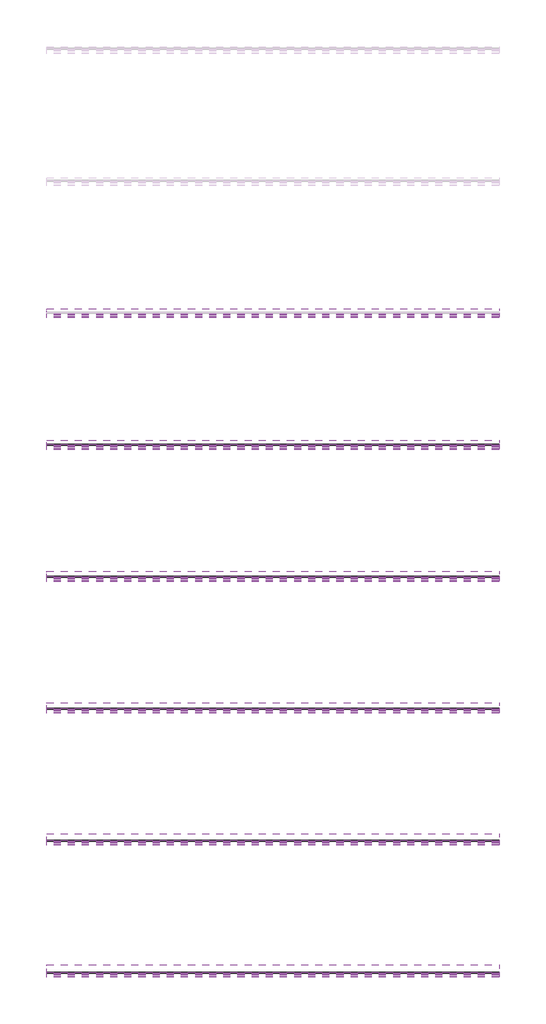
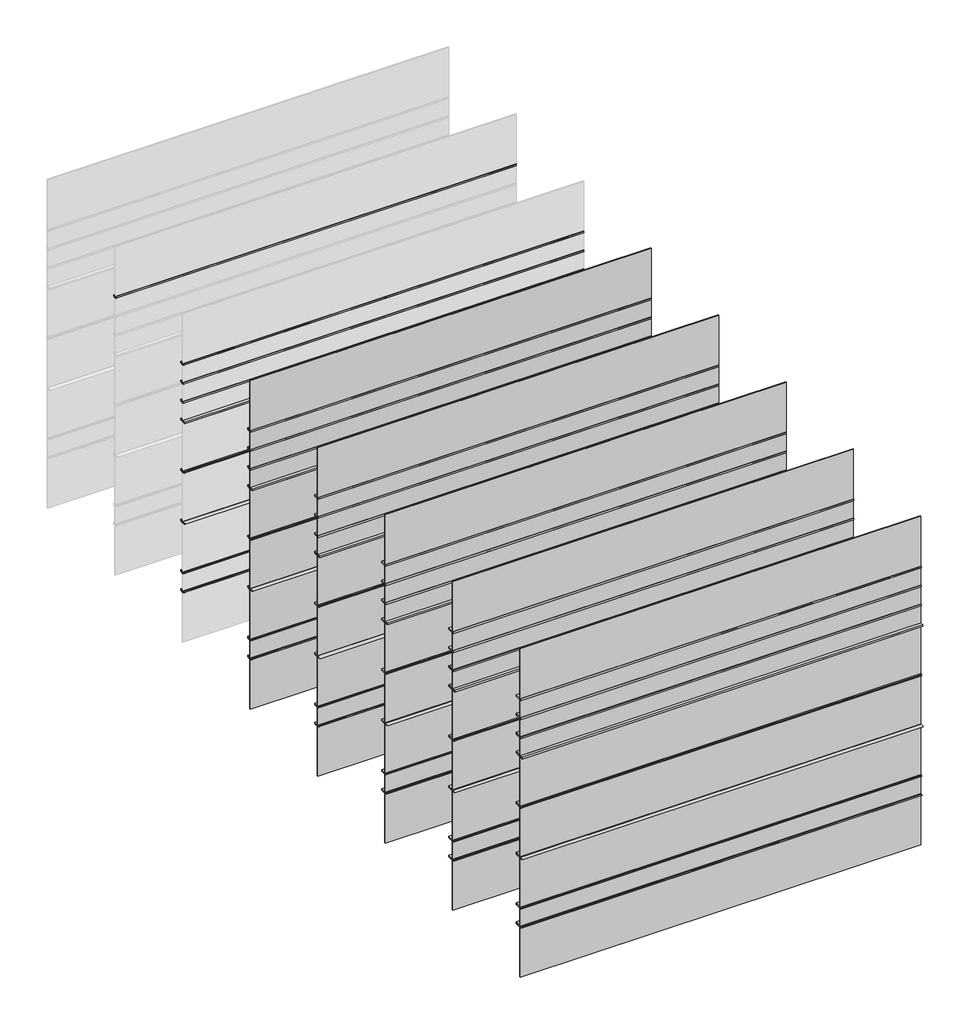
# One storey, part 3 of 4: 49 members, 45 plates.
"""IFC4 building model written with IfcOpenShell, lengths in millimetres."""

from ifc_helpers import new_model, si_unit, origin, place, context, project, spatial, transform, mapped, element, save
from components import rectangular_mullion_597678e5, rectangular_mullion_4a4e9010, rectangular_mullion_36b3f704, rectangular_mullion_515c6c0a, rectangular_mullion_46f770c1, rectangular_mullion_1049462c, rectangular_mullion_6f043096, rectangular_mullion_a5e0a4a2, rectangular_mullion_177b828d, rectangular_mullion_4c3bc3ec, rectangular_mullion_86413ba4, rectangular_mullion_892d21c0, rectangular_mullion_342bc9f6, rectangular_mullion_3ef4cb84, rectangular_mullion_d826bcb7, rectangular_mullion_a6785b0c, rectangular_mullion_d535f9ed, rectangular_mullion_430c60db, rectangular_mullion_0ccb0c52, rectangular_mullion_c67564a4, rectangular_mullion_c2358fa2, rectangular_mullion_a8d858be, rectangular_mullion_c63524a1, rectangular_mullion_42c21d4d, rectangular_mullion_46ebe289, rectangular_mullion_b81a72bd, rectangular_mullion_c18a7aea, rectangular_mullion_4e9b35a7, rectangular_mullion_1d7d6753, rectangular_mullion_405eaec0, rectangular_mullion_38bab3f1, rectangular_mullion_c3005a8d, rectangular_mullion_ff61c363, rectangular_mullion_6f243deb, rectangular_mullion_073814be, rectangular_mullion_bfe2b55c, rectangular_mullion_d7782864, rectangular_mullion_de1e265b, rectangular_mullion_fe6175aa, rectangular_mullion_d78a1f7d, rectangular_mullion_e0de59ed, rectangular_mullion_ef87ac82, rectangular_mullion_c9536558, rectangular_mullion_9b6ecc9d, rectangular_mullion_1dc7512e, rectangular_mullion_e9cda891, rectangular_mullion_11c32cba, rectangular_mullion_9ad05bb0, rectangular_mullion_7831559f, system_panel_glazed_1a993f0c, system_panel_glazed_b61b2489, system_panel_glazed_590bdfaf, system_panel_glazed_47dfef42, system_panel_glazed_745bbd44

model = new_model("IFC4")

# Units and contexts
model_context = context("Model", 3, world=origin())
ifc_project = project(units=[si_unit("LENGTHUNIT", "METRE", prefix="MILLI")], contexts=[model_context])

# Site, building, storey
site = spatial("IfcSite", under=ifc_project)
building = spatial("IfcBuilding", under=site)
storey = spatial("IfcBuildingStorey", under=building, Name="REY 01 - Overview Mullions", Elevation=0.0)

# Members
placement = place(None, origin())
rectangular_mullion_shape = rectangular_mullion_597678e5(model_context)
element("IfcMember", 1, ObjectType="Rectangular Mullion : Reynaers_CW-50_Mullion-Transom_Horizontal_67.4mm_Facecap-02A", at=placement, inside=storey, context=model_context, shape_type="MappedRepresentation", body=[
    mapped(rectangular_mullion_shape, transform((4520.408856, -11600.3540011, 8800.0), x_axis=(0.0, 0.0, 1.0), y_axis=(0.0, 1.0, 0.0), z_axis=(-1.0, 0.0, 0.0))),
])
rectangular_mullion_2_shape = rectangular_mullion_4a4e9010(model_context)
element("IfcMember", 2, ObjectType="Rectangular Mullion : Reynaers_CW-50_Mullion-Transom_Horizontal_88.4mm_Facecap-02A", at=placement, inside=storey, context=model_context, shape_type="MappedRepresentation", body=[
    mapped(rectangular_mullion_2_shape, transform((4520.408856, -15100.3540011, 8800.0), x_axis=(0.0, 0.0, 1.0), y_axis=(0.0, 1.0, 0.0), z_axis=(-1.0, 0.0, 0.0))),
])
rectangular_mullion_3_shape = rectangular_mullion_36b3f704(model_context)
element("IfcMember", 3, ObjectType="Rectangular Mullion : Reynaers_CW-50_Mullion-Transom_Horizontal_88.4mm_Facecap-02B", at=placement, inside=storey, context=model_context, shape_type="MappedRepresentation", body=[
    mapped(rectangular_mullion_3_shape, transform((4520.408856, -15100.3540011, 8200.0), x_axis=(0.0, 0.0, 1.0), y_axis=(0.0, 1.0, 0.0), z_axis=(-1.0, 0.0, 0.0))),
])
rectangular_mullion_4_shape = rectangular_mullion_515c6c0a(model_context)
element("IfcMember", 4, ObjectType="Rectangular Mullion : Reynaers_CW-50_Mullion-Transom_Horizontal_88.4mm_Facecap-02C", at=placement, inside=storey, context=model_context, shape_type="MappedRepresentation", body=[
    mapped(rectangular_mullion_4_shape, transform((4520.408856, -15100.3540011, 7600.0), x_axis=(0.0, 0.0, 1.0), y_axis=(0.0, 1.0, 0.0), z_axis=(-1.0, 0.0, 0.0))),
])
rectangular_mullion_5_shape = rectangular_mullion_46f770c1(model_context)
element("IfcMember", 5, ObjectType="Rectangular Mullion : Reynaers_CW-50_Mullion-Transom_Horizontal_88.4mm_Facecap-02D", at=placement, inside=storey, context=model_context, shape_type="MappedRepresentation", body=[
    mapped(rectangular_mullion_5_shape, transform((4520.408856, -15100.3540011, 7000.0), x_axis=(0.0, 0.0, 1.0), y_axis=(0.0, 1.0, 0.0), z_axis=(-1.0, 0.0, 0.0))),
])
rectangular_mullion_6_shape = rectangular_mullion_1049462c(model_context)
element("IfcMember", 6, ObjectType="Rectangular Mullion : Reynaers_CW-50_Mullion-Transom_Horizontal_88.4mm_Facecap-05", at=placement, inside=storey, context=model_context, shape_type="MappedRepresentation", body=[
    mapped(rectangular_mullion_6_shape, transform((4520.408856, -15100.3540011, 3800.0), x_axis=(0.0, 0.0, 1.0), y_axis=(0.0, 1.0, 0.0), z_axis=(-1.0, 0.0, 0.0))),
])
rectangular_mullion_7_shape = rectangular_mullion_6f043096(model_context)
element("IfcMember", 7, ObjectType="Rectangular Mullion : Reynaers_CW-50_Mullion-Transom_Horizontal_88.4mm_Facecap-06A", at=placement, inside=storey, context=model_context, shape_type="MappedRepresentation", body=[
    mapped(rectangular_mullion_7_shape, transform((4520.408856, -15100.3540011, 2200.0), x_axis=(0.0, 0.0, 1.0), y_axis=(0.0, 1.0, 0.0), z_axis=(-1.0, 0.0, 0.0))),
])
rectangular_mullion_8_shape = rectangular_mullion_a5e0a4a2(model_context)
element("IfcMember", 8, ObjectType="Rectangular Mullion : Reynaers_CW-50_Mullion-Transom_Horizontal_88.4mm_Facecap-06B", at=placement, inside=storey, context=model_context, shape_type="MappedRepresentation", body=[
    mapped(rectangular_mullion_8_shape, transform((4520.408856, -15100.3540011, 1600.0), x_axis=(0.0, 0.0, 1.0), y_axis=(0.0, 1.0, 0.0), z_axis=(-1.0, 0.0, 0.0))),
])
rectangular_mullion_9_shape = rectangular_mullion_177b828d(model_context)
element("IfcMember", 9, ObjectType="Rectangular Mullion : Reynaers_CW-50_Mullion-Transom_Horizontal_109.4mm_Facecap-02A", at=placement, inside=storey, context=model_context, shape_type="MappedRepresentation", body=[
    mapped(rectangular_mullion_9_shape, transform((4520.408856, -18600.3540011, 8800.0), x_axis=(0.0, 0.0, 1.0), y_axis=(0.0, 1.0, 0.0), z_axis=(-1.0, 0.0, 0.0))),
])
rectangular_mullion_10_shape = rectangular_mullion_4c3bc3ec(model_context)
element("IfcMember", 10, ObjectType="Rectangular Mullion : Reynaers_CW-50_Mullion-Transom_Horizontal_109.4mm_Facecap-02B", at=placement, inside=storey, context=model_context, shape_type="MappedRepresentation", body=[
    mapped(rectangular_mullion_10_shape, transform((4520.408856, -18600.3540011, 8200.0), x_axis=(0.0, 0.0, 1.0), y_axis=(0.0, 1.0, 0.0), z_axis=(-1.0, 0.0, 0.0))),
])
rectangular_mullion_11_shape = rectangular_mullion_86413ba4(model_context)
element("IfcMember", 11, ObjectType="Rectangular Mullion : Reynaers_CW-50_Mullion-Transom_Horizontal_109.4mm_Facecap-02C", at=placement, inside=storey, context=model_context, shape_type="MappedRepresentation", body=[
    mapped(rectangular_mullion_11_shape, transform((4520.408856, -18600.3540011, 7600.0), x_axis=(0.0, 0.0, 1.0), y_axis=(0.0, 1.0, 0.0), z_axis=(-1.0, 0.0, 0.0))),
])
rectangular_mullion_12_shape = rectangular_mullion_892d21c0(model_context)
element("IfcMember", 12, ObjectType="Rectangular Mullion : Reynaers_CW-50_Mullion-Transom_Horizontal_109.4mm_Facecap-02D", at=placement, inside=storey, context=model_context, shape_type="MappedRepresentation", body=[
    mapped(rectangular_mullion_12_shape, transform((4520.408856, -18600.3540011, 7000.0), x_axis=(0.0, 0.0, 1.0), y_axis=(0.0, 1.0, 0.0), z_axis=(-1.0, 0.0, 0.0))),
])
rectangular_mullion_13_shape = rectangular_mullion_342bc9f6(model_context)
element("IfcMember", 13, ObjectType="Rectangular Mullion : Reynaers_CW-50_Mullion-Transom_Horizontal_109.4mm_Facecap-05", at=placement, inside=storey, context=model_context, shape_type="MappedRepresentation", body=[
    mapped(rectangular_mullion_13_shape, transform((4520.408856, -18600.3540011, 3800.0), x_axis=(0.0, 0.0, 1.0), y_axis=(0.0, 1.0, 0.0), z_axis=(-1.0, 0.0, 0.0))),
])
rectangular_mullion_14_shape = rectangular_mullion_3ef4cb84(model_context)
element("IfcMember", 14, ObjectType="Rectangular Mullion : Reynaers_CW-50_Mullion-Transom_Horizontal_109.4mm_Facecap-06A", at=placement, inside=storey, context=model_context, shape_type="MappedRepresentation", body=[
    mapped(rectangular_mullion_14_shape, transform((4520.408856, -18600.3540011, 2200.0), x_axis=(0.0, 0.0, 1.0), y_axis=(0.0, 1.0, 0.0), z_axis=(-1.0, 0.0, 0.0))),
])
rectangular_mullion_15_shape = rectangular_mullion_d826bcb7(model_context)
element("IfcMember", 15, ObjectType="Rectangular Mullion : Reynaers_CW-50_Mullion-Transom_Horizontal_109.4mm_Facecap-06B", at=placement, inside=storey, context=model_context, shape_type="MappedRepresentation", body=[
    mapped(rectangular_mullion_15_shape, transform((4520.408856, -18600.3540011, 1600.0), x_axis=(0.0, 0.0, 1.0), y_axis=(0.0, 1.0, 0.0), z_axis=(-1.0, 0.0, 0.0))),
])
rectangular_mullion_16_shape = rectangular_mullion_a6785b0c(model_context)
element("IfcMember", 16, ObjectType="Rectangular Mullion : Reynaers_CW-50_Mullion-Transom_Horizontal_130.4mm_Facecap-02A", at=placement, inside=storey, context=model_context, shape_type="MappedRepresentation", body=[
    mapped(rectangular_mullion_16_shape, transform((4520.408856, -22100.3540011, 8800.0), x_axis=(0.0, 0.0, 1.0), y_axis=(0.0, 1.0, 0.0), z_axis=(-1.0, 0.0, 0.0))),
])
rectangular_mullion_17_shape = rectangular_mullion_d535f9ed(model_context)
element("IfcMember", 17, ObjectType="Rectangular Mullion : Reynaers_CW-50_Mullion-Transom_Horizontal_130.4mm_Facecap-02B", at=placement, inside=storey, context=model_context, shape_type="MappedRepresentation", body=[
    mapped(rectangular_mullion_17_shape, transform((4520.408856, -22100.3540011, 8200.0), x_axis=(0.0, 0.0, 1.0), y_axis=(0.0, 1.0, 0.0), z_axis=(-1.0, 0.0, 0.0))),
])
rectangular_mullion_18_shape = rectangular_mullion_430c60db(model_context)
element("IfcMember", 18, ObjectType="Rectangular Mullion : Reynaers_CW-50_Mullion-Transom_Horizontal_130.4mm_Facecap-02C", at=placement, inside=storey, context=model_context, shape_type="MappedRepresentation", body=[
    mapped(rectangular_mullion_18_shape, transform((4520.408856, -22100.3540011, 7600.0), x_axis=(0.0, 0.0, 1.0), y_axis=(0.0, 1.0, 0.0), z_axis=(-1.0, 0.0, 0.0))),
])
rectangular_mullion_19_shape = rectangular_mullion_0ccb0c52(model_context)
element("IfcMember", 19, ObjectType="Rectangular Mullion : Reynaers_CW-50_Mullion-Transom_Horizontal_130.4mm_Facecap-02D", at=placement, inside=storey, context=model_context, shape_type="MappedRepresentation", body=[
    mapped(rectangular_mullion_19_shape, transform((4520.408856, -22100.3540011, 7000.0), x_axis=(0.0, 0.0, 1.0), y_axis=(0.0, 1.0, 0.0), z_axis=(-1.0, 0.0, 0.0))),
])
rectangular_mullion_20_shape = rectangular_mullion_c67564a4(model_context)
element("IfcMember", 20, ObjectType="Rectangular Mullion : Reynaers_CW-50_Mullion-Transom_Horizontal_130.4mm_Facecap-05", at=placement, inside=storey, context=model_context, shape_type="MappedRepresentation", body=[
    mapped(rectangular_mullion_20_shape, transform((4520.408856, -22100.3540011, 3800.0), x_axis=(0.0, 0.0, 1.0), y_axis=(0.0, 1.0, 0.0), z_axis=(-1.0, 0.0, 0.0))),
])
rectangular_mullion_21_shape = rectangular_mullion_c2358fa2(model_context)
element("IfcMember", 21, ObjectType="Rectangular Mullion : Reynaers_CW-50_Mullion-Transom_Horizontal_130.4mm_Facecap-06A", at=placement, inside=storey, context=model_context, shape_type="MappedRepresentation", body=[
    mapped(rectangular_mullion_21_shape, transform((4520.408856, -22100.3540011, 2200.0), x_axis=(0.0, 0.0, 1.0), y_axis=(0.0, 1.0, 0.0), z_axis=(-1.0, 0.0, 0.0))),
])
rectangular_mullion_22_shape = rectangular_mullion_a8d858be(model_context)
element("IfcMember", 22, ObjectType="Rectangular Mullion : Reynaers_CW-50_Mullion-Transom_Horizontal_130.4mm_Facecap-06B", at=placement, inside=storey, context=model_context, shape_type="MappedRepresentation", body=[
    mapped(rectangular_mullion_22_shape, transform((4520.408856, -22100.3540011, 1600.0), x_axis=(0.0, 0.0, 1.0), y_axis=(0.0, 1.0, 0.0), z_axis=(-1.0, 0.0, 0.0))),
])
rectangular_mullion_23_shape = rectangular_mullion_c63524a1(model_context)
element("IfcMember", 23, ObjectType="Rectangular Mullion : Reynaers_CW-50_Mullion-Transom_Horizontal_151.4mm_Facecap-02A", at=placement, inside=storey, context=model_context, shape_type="MappedRepresentation", body=[
    mapped(rectangular_mullion_23_shape, transform((4520.408856, -25600.3540011, 8800.0), x_axis=(0.0, 0.0, 1.0), y_axis=(0.0, 1.0, 0.0), z_axis=(-1.0, 0.0, 0.0))),
])
rectangular_mullion_24_shape = rectangular_mullion_42c21d4d(model_context)
element("IfcMember", 24, ObjectType="Rectangular Mullion : Reynaers_CW-50_Mullion-Transom_Horizontal_151.4mm_Facecap-02B", at=placement, inside=storey, context=model_context, shape_type="MappedRepresentation", body=[
    mapped(rectangular_mullion_24_shape, transform((4520.408856, -25600.3540011, 8200.0), x_axis=(0.0, 0.0, 1.0), y_axis=(0.0, 1.0, 0.0), z_axis=(-1.0, 0.0, 0.0))),
])
rectangular_mullion_25_shape = rectangular_mullion_46ebe289(model_context)
element("IfcMember", 25, ObjectType="Rectangular Mullion : Reynaers_CW-50_Mullion-Transom_Horizontal_151.4mm_Facecap-02C", at=placement, inside=storey, context=model_context, shape_type="MappedRepresentation", body=[
    mapped(rectangular_mullion_25_shape, transform((4520.408856, -25600.3540011, 7600.0), x_axis=(0.0, 0.0, 1.0), y_axis=(0.0, 1.0, 0.0), z_axis=(-1.0, 0.0, 0.0))),
])
rectangular_mullion_26_shape = rectangular_mullion_b81a72bd(model_context)
element("IfcMember", 26, ObjectType="Rectangular Mullion : Reynaers_CW-50_Mullion-Transom_Horizontal_151.4mm_Facecap-02D", at=placement, inside=storey, context=model_context, shape_type="MappedRepresentation", body=[
    mapped(rectangular_mullion_26_shape, transform((4520.408856, -25600.3540011, 7000.0), x_axis=(0.0, 0.0, 1.0), y_axis=(0.0, 1.0, 0.0), z_axis=(-1.0, 0.0, 0.0))),
])
rectangular_mullion_27_shape = rectangular_mullion_c18a7aea(model_context)
element("IfcMember", 27, ObjectType="Rectangular Mullion : Reynaers_CW-50_Mullion-Transom_Horizontal_151.4mm_Facecap-05", at=placement, inside=storey, context=model_context, shape_type="MappedRepresentation", body=[
    mapped(rectangular_mullion_27_shape, transform((4520.408856, -25600.3540011, 3800.0), x_axis=(0.0, 0.0, 1.0), y_axis=(0.0, 1.0, 0.0), z_axis=(-1.0, 0.0, 0.0))),
])
rectangular_mullion_28_shape = rectangular_mullion_4e9b35a7(model_context)
element("IfcMember", 28, ObjectType="Rectangular Mullion : Reynaers_CW-50_Mullion-Transom_Horizontal_151.4mm_Facecap-06A", at=placement, inside=storey, context=model_context, shape_type="MappedRepresentation", body=[
    mapped(rectangular_mullion_28_shape, transform((4520.408856, -25600.3540011, 2200.0), x_axis=(0.0, 0.0, 1.0), y_axis=(0.0, 1.0, 0.0), z_axis=(-1.0, 0.0, 0.0))),
])
rectangular_mullion_29_shape = rectangular_mullion_1d7d6753(model_context)
element("IfcMember", 29, ObjectType="Rectangular Mullion : Reynaers_CW-50_Mullion-Transom_Horizontal_151.4mm_Facecap-06B", at=placement, inside=storey, context=model_context, shape_type="MappedRepresentation", body=[
    mapped(rectangular_mullion_29_shape, transform((4520.408856, -25600.3540011, 1600.0), x_axis=(0.0, 0.0, 1.0), y_axis=(0.0, 1.0, 0.0), z_axis=(-1.0, 0.0, 0.0))),
])
rectangular_mullion_30_shape = rectangular_mullion_405eaec0(model_context)
element("IfcMember", 30, ObjectType="Rectangular Mullion : Reynaers_CW-50_Mullion-Transom_Horizontal_172.4mm_Facecap-02A", at=placement, inside=storey, context=model_context, shape_type="MappedRepresentation", body=[
    mapped(rectangular_mullion_30_shape, transform((4520.408856, -29100.3540011, 8800.0), x_axis=(0.0, 0.0, 1.0), y_axis=(0.0, 1.0, 0.0), z_axis=(-1.0, 0.0, 0.0))),
])
rectangular_mullion_31_shape = rectangular_mullion_38bab3f1(model_context)
element("IfcMember", 31, ObjectType="Rectangular Mullion : Reynaers_CW-50_Mullion-Transom_Horizontal_172.4mm_Facecap-02B", at=placement, inside=storey, context=model_context, shape_type="MappedRepresentation", body=[
    mapped(rectangular_mullion_31_shape, transform((4520.408856, -29100.3540011, 8200.0), x_axis=(0.0, 0.0, 1.0), y_axis=(0.0, 1.0, 0.0), z_axis=(-1.0, 0.0, 0.0))),
])
rectangular_mullion_32_shape = rectangular_mullion_c3005a8d(model_context)
element("IfcMember", 32, ObjectType="Rectangular Mullion : Reynaers_CW-50_Mullion-Transom_Horizontal_172.4mm_Facecap-02C", at=placement, inside=storey, context=model_context, shape_type="MappedRepresentation", body=[
    mapped(rectangular_mullion_32_shape, transform((4520.408856, -29100.3540011, 7600.0), x_axis=(0.0, 0.0, 1.0), y_axis=(0.0, 1.0, 0.0), z_axis=(-1.0, 0.0, 0.0))),
])
rectangular_mullion_33_shape = rectangular_mullion_ff61c363(model_context)
element("IfcMember", 33, ObjectType="Rectangular Mullion : Reynaers_CW-50_Mullion-Transom_Horizontal_172.4mm_Facecap-02D", at=placement, inside=storey, context=model_context, shape_type="MappedRepresentation", body=[
    mapped(rectangular_mullion_33_shape, transform((4520.408856, -29100.3540011, 7000.0), x_axis=(0.0, 0.0, 1.0), y_axis=(0.0, 1.0, 0.0), z_axis=(-1.0, 0.0, 0.0))),
])
rectangular_mullion_34_shape = rectangular_mullion_6f243deb(model_context)
element("IfcMember", 34, ObjectType="Rectangular Mullion : Reynaers_CW-50_Mullion-Transom_Horizontal_172.4mm_Facecap-05", at=placement, inside=storey, context=model_context, shape_type="MappedRepresentation", body=[
    mapped(rectangular_mullion_34_shape, transform((4520.408856, -29100.3540011, 3800.0), x_axis=(0.0, 0.0, 1.0), y_axis=(0.0, 1.0, 0.0), z_axis=(-1.0, 0.0, 0.0))),
])
rectangular_mullion_35_shape = rectangular_mullion_073814be(model_context)
element("IfcMember", 35, ObjectType="Rectangular Mullion : Reynaers_CW-50_Mullion-Transom_Horizontal_172.4mm_Facecap-06A", at=placement, inside=storey, context=model_context, shape_type="MappedRepresentation", body=[
    mapped(rectangular_mullion_35_shape, transform((4520.408856, -29100.3540011, 2200.0), x_axis=(0.0, 0.0, 1.0), y_axis=(0.0, 1.0, 0.0), z_axis=(-1.0, 0.0, 0.0))),
])
rectangular_mullion_36_shape = rectangular_mullion_bfe2b55c(model_context)
element("IfcMember", 36, ObjectType="Rectangular Mullion : Reynaers_CW-50_Mullion-Transom_Horizontal_172.4mm_Facecap-06B", at=placement, inside=storey, context=model_context, shape_type="MappedRepresentation", body=[
    mapped(rectangular_mullion_36_shape, transform((4520.408856, -29100.3540011, 1600.0), x_axis=(0.0, 0.0, 1.0), y_axis=(0.0, 1.0, 0.0), z_axis=(-1.0, 0.0, 0.0))),
])
rectangular_mullion_37_shape = rectangular_mullion_d7782864(model_context)
element("IfcMember", 37, ObjectType="Rectangular Mullion : Reynaers_CW-50_Mullion-Transom_Horizontal_193.4mm_Facecap-02A", at=placement, inside=storey, context=model_context, shape_type="MappedRepresentation", body=[
    mapped(rectangular_mullion_37_shape, transform((4520.408856, -32600.3540011, 8800.0), x_axis=(0.0, 0.0, 1.0), y_axis=(0.0, 1.0, 0.0), z_axis=(-1.0, 0.0, 0.0))),
])
rectangular_mullion_38_shape = rectangular_mullion_de1e265b(model_context)
element("IfcMember", 38, ObjectType="Rectangular Mullion : Reynaers_CW-50_Mullion-Transom_Horizontal_193.4mm_Facecap-02B", at=placement, inside=storey, context=model_context, shape_type="MappedRepresentation", body=[
    mapped(rectangular_mullion_38_shape, transform((4520.408856, -32600.3540011, 8200.0), x_axis=(0.0, 0.0, 1.0), y_axis=(0.0, 1.0, 0.0), z_axis=(-1.0, 0.0, 0.0))),
])
rectangular_mullion_39_shape = rectangular_mullion_fe6175aa(model_context)
element("IfcMember", 39, ObjectType="Rectangular Mullion : Reynaers_CW-50_Mullion-Transom_Horizontal_193.4mm_Facecap-02C", at=placement, inside=storey, context=model_context, shape_type="MappedRepresentation", body=[
    mapped(rectangular_mullion_39_shape, transform((4520.408856, -32600.3540011, 7600.0), x_axis=(0.0, 0.0, 1.0), y_axis=(0.0, 1.0, 0.0), z_axis=(-1.0, 0.0, 0.0))),
])
rectangular_mullion_40_shape = rectangular_mullion_d78a1f7d(model_context)
element("IfcMember", 40, ObjectType="Rectangular Mullion : Reynaers_CW-50_Mullion-Transom_Horizontal_193.4mm_Facecap-02D", at=placement, inside=storey, context=model_context, shape_type="MappedRepresentation", body=[
    mapped(rectangular_mullion_40_shape, transform((4520.408856, -32600.3540011, 7000.0), x_axis=(0.0, 0.0, 1.0), y_axis=(0.0, 1.0, 0.0), z_axis=(-1.0, 0.0, 0.0))),
])
rectangular_mullion_41_shape = rectangular_mullion_e0de59ed(model_context)
element("IfcMember", 41, ObjectType="Rectangular Mullion : Reynaers_CW-50_Mullion-Transom_Horizontal_193.4mm_Facecap-05", at=placement, inside=storey, context=model_context, shape_type="MappedRepresentation", body=[
    mapped(rectangular_mullion_41_shape, transform((4520.408856, -32600.3540011, 3800.0), x_axis=(0.0, 0.0, 1.0), y_axis=(0.0, 1.0, 0.0), z_axis=(-1.0, 0.0, 0.0))),
])
rectangular_mullion_42_shape = rectangular_mullion_ef87ac82(model_context)
element("IfcMember", 42, ObjectType="Rectangular Mullion : Reynaers_CW-50_Mullion-Transom_Horizontal_193.4mm_Facecap-06A", at=placement, inside=storey, context=model_context, shape_type="MappedRepresentation", body=[
    mapped(rectangular_mullion_42_shape, transform((4520.408856, -32600.3540011, 2200.0), x_axis=(0.0, 0.0, 1.0), y_axis=(0.0, 1.0, 0.0), z_axis=(-1.0, 0.0, 0.0))),
])
rectangular_mullion_43_shape = rectangular_mullion_c9536558(model_context)
element("IfcMember", 43, ObjectType="Rectangular Mullion : Reynaers_CW-50_Mullion-Transom_Horizontal_193.4mm_Facecap-06B", at=placement, inside=storey, context=model_context, shape_type="MappedRepresentation", body=[
    mapped(rectangular_mullion_43_shape, transform((4520.408856, -32600.3540011, 1600.0), x_axis=(0.0, 0.0, 1.0), y_axis=(0.0, 1.0, 0.0), z_axis=(-1.0, 0.0, 0.0))),
])
rectangular_mullion_44_shape = rectangular_mullion_9b6ecc9d(model_context)
element("IfcMember", 44, ObjectType="Rectangular Mullion : Reynaers_CW-50_Mullion-Transom_Horizontal_88.4mm_Facecap-03", at=placement, inside=storey, context=model_context, shape_type="MappedRepresentation", body=[
    mapped(rectangular_mullion_44_shape, transform((4520.408856, -15100.3540011, 5400.0), x_axis=(0.0, 0.0, 1.0), y_axis=(0.0, 1.0, 0.0), z_axis=(-1.0, 0.0, 0.0))),
])
rectangular_mullion_45_shape = rectangular_mullion_1dc7512e(model_context)
element("IfcMember", 45, ObjectType="Rectangular Mullion : Reynaers_CW-50_Mullion-Transom_Horizontal_109.4mm_Facecap-03", at=placement, inside=storey, context=model_context, shape_type="MappedRepresentation", body=[
    mapped(rectangular_mullion_45_shape, transform((4520.408856, -18600.3540011, 5400.0), x_axis=(0.0, 0.0, 1.0), y_axis=(0.0, 1.0, 0.0), z_axis=(-1.0, 0.0, 0.0))),
])
rectangular_mullion_46_shape = rectangular_mullion_e9cda891(model_context)
element("IfcMember", 46, ObjectType="Rectangular Mullion : Reynaers_CW-50_Mullion-Transom_Horizontal_130.4mm_Facecap-03", at=placement, inside=storey, context=model_context, shape_type="MappedRepresentation", body=[
    mapped(rectangular_mullion_46_shape, transform((4520.408856, -22100.3540011, 5400.0), x_axis=(0.0, 0.0, 1.0), y_axis=(0.0, 1.0, 0.0), z_axis=(-1.0, 0.0, 0.0))),
])
rectangular_mullion_47_shape = rectangular_mullion_11c32cba(model_context)
element("IfcMember", 47, ObjectType="Rectangular Mullion : Reynaers_CW-50_Mullion-Transom_Horizontal_151.4mm_Facecap-03", at=placement, inside=storey, context=model_context, shape_type="MappedRepresentation", body=[
    mapped(rectangular_mullion_47_shape, transform((4520.408856, -25600.3540011, 5400.0), x_axis=(0.0, 0.0, 1.0), y_axis=(0.0, 1.0, 0.0), z_axis=(-1.0, 0.0, 0.0))),
])
rectangular_mullion_48_shape = rectangular_mullion_9ad05bb0(model_context)
element("IfcMember", 48, ObjectType="Rectangular Mullion : Reynaers_CW-50_Mullion-Transom_Horizontal_172.4mm_Facecap-03", at=placement, inside=storey, context=model_context, shape_type="MappedRepresentation", body=[
    mapped(rectangular_mullion_48_shape, transform((4520.408856, -29100.3540011, 5400.0), x_axis=(0.0, 0.0, 1.0), y_axis=(0.0, 1.0, 0.0), z_axis=(-1.0, 0.0, 0.0))),
])
rectangular_mullion_49_shape = rectangular_mullion_7831559f(model_context)
element("IfcMember", 49, ObjectType="Rectangular Mullion : Reynaers_CW-50_Mullion-Transom_Horizontal_193.4mm_Facecap-03", at=placement, inside=storey, context=model_context, shape_type="MappedRepresentation", body=[
    mapped(rectangular_mullion_49_shape, transform((4520.408856, -32600.3540011, 5400.0), x_axis=(0.0, 0.0, 1.0), y_axis=(0.0, 1.0, 0.0), z_axis=(-1.0, 0.0, 0.0))),
])

# Plates
system_panel_glazed_shape = system_panel_glazed_1a993f0c(model_context)
element("IfcPlate", 50, ObjectType="System Panel : Glazed", at=placement, inside=storey, context=model_context, shape_type="MappedRepresentation", body=[
    mapped(system_panel_glazed_shape, transform((10520.408856, -32600.3540011, 8805.2995941), x_axis=(-1.0, 0.0, 0.0), y_axis=(0.0, -1.0, 0.0), z_axis=(0.0, 0.0, 1.0))),
])
element("IfcPlate", 51, ObjectType="System Panel : Glazed", at=placement, inside=storey, context=model_context, shape_type="MappedRepresentation", body=[
    mapped(system_panel_glazed_shape, transform((10520.408856, -29100.3540011, 8805.2995941), x_axis=(-1.0, 0.0, 0.0), y_axis=(0.0, -1.0, 0.0), z_axis=(0.0, 0.0, 1.0))),
])
element("IfcPlate", 52, ObjectType="System Panel : Glazed", at=placement, inside=storey, context=model_context, shape_type="MappedRepresentation", body=[
    mapped(system_panel_glazed_shape, transform((10520.408856, -25600.3540011, 8805.2995941), x_axis=(-1.0, 0.0, 0.0), y_axis=(0.0, -1.0, 0.0), z_axis=(0.0, 0.0, 1.0))),
])
element("IfcPlate", 53, ObjectType="System Panel : Glazed", at=placement, inside=storey, context=model_context, shape_type="MappedRepresentation", body=[
    mapped(system_panel_glazed_shape, transform((10520.408856, -22100.3540011, 8805.2995941), x_axis=(-1.0, 0.0, 0.0), y_axis=(0.0, -1.0, 0.0), z_axis=(0.0, 0.0, 1.0))),
])
element("IfcPlate", 54, ObjectType="System Panel : Glazed", at=placement, inside=storey, context=model_context, shape_type="MappedRepresentation", body=[
    mapped(system_panel_glazed_shape, transform((10520.408856, -18600.3540011, 8805.2995941), x_axis=(-1.0, 0.0, 0.0), y_axis=(0.0, -1.0, 0.0), z_axis=(0.0, 0.0, 1.0))),
])
system_panel_glazed_2_shape = system_panel_glazed_b61b2489(model_context)
element("IfcPlate", 55, ObjectType="System Panel : Glazed", at=placement, inside=storey, context=model_context, shape_type="MappedRepresentation", body=[
    mapped(system_panel_glazed_2_shape, transform((10520.408856, -32600.3540011, 1605.2995941), x_axis=(-1.0, 0.0, 0.0), y_axis=(0.0, -1.0, 0.0), z_axis=(0.0, 0.0, 1.0))),
])
element("IfcPlate", 56, ObjectType="System Panel : Glazed", at=placement, inside=storey, context=model_context, shape_type="MappedRepresentation", body=[
    mapped(system_panel_glazed_2_shape, transform((10520.408856, -32600.3540011, 7005.2995941), x_axis=(-1.0, 0.0, 0.0), y_axis=(0.0, -1.0, 0.0), z_axis=(0.0, 0.0, 1.0))),
])
element("IfcPlate", 57, ObjectType="System Panel : Glazed", at=placement, inside=storey, context=model_context, shape_type="MappedRepresentation", body=[
    mapped(system_panel_glazed_2_shape, transform((10520.408856, -32600.3540011, 7605.2995941), x_axis=(-1.0, 0.0, 0.0), y_axis=(0.0, -1.0, 0.0), z_axis=(0.0, 0.0, 1.0))),
])
element("IfcPlate", 58, ObjectType="System Panel : Glazed", at=placement, inside=storey, context=model_context, shape_type="MappedRepresentation", body=[
    mapped(system_panel_glazed_2_shape, transform((10520.408856, -32600.3540011, 8205.2995941), x_axis=(-1.0, 0.0, 0.0), y_axis=(0.0, -1.0, 0.0), z_axis=(0.0, 0.0, 1.0))),
])
element("IfcPlate", 59, ObjectType="System Panel : Glazed", at=placement, inside=storey, context=model_context, shape_type="MappedRepresentation", body=[
    mapped(system_panel_glazed_2_shape, transform((10520.408856, -29100.3540011, 1605.2995941), x_axis=(-1.0, 0.0, 0.0), y_axis=(0.0, -1.0, 0.0), z_axis=(0.0, 0.0, 1.0))),
])
element("IfcPlate", 60, ObjectType="System Panel : Glazed", at=placement, inside=storey, context=model_context, shape_type="MappedRepresentation", body=[
    mapped(system_panel_glazed_2_shape, transform((10520.408856, -29100.3540011, 7005.2995941), x_axis=(-1.0, 0.0, 0.0), y_axis=(0.0, -1.0, 0.0), z_axis=(0.0, 0.0, 1.0))),
])
element("IfcPlate", 61, ObjectType="System Panel : Glazed", at=placement, inside=storey, context=model_context, shape_type="MappedRepresentation", body=[
    mapped(system_panel_glazed_2_shape, transform((10520.408856, -29100.3540011, 7605.2995941), x_axis=(-1.0, 0.0, 0.0), y_axis=(0.0, -1.0, 0.0), z_axis=(0.0, 0.0, 1.0))),
])
element("IfcPlate", 62, ObjectType="System Panel : Glazed", at=placement, inside=storey, context=model_context, shape_type="MappedRepresentation", body=[
    mapped(system_panel_glazed_2_shape, transform((10520.408856, -29100.3540011, 8205.2995941), x_axis=(-1.0, 0.0, 0.0), y_axis=(0.0, -1.0, 0.0), z_axis=(0.0, 0.0, 1.0))),
])
element("IfcPlate", 63, ObjectType="System Panel : Glazed", at=placement, inside=storey, context=model_context, shape_type="MappedRepresentation", body=[
    mapped(system_panel_glazed_2_shape, transform((10520.408856, -25600.3540011, 1605.2995941), x_axis=(-1.0, 0.0, 0.0), y_axis=(0.0, -1.0, 0.0), z_axis=(0.0, 0.0, 1.0))),
])
element("IfcPlate", 64, ObjectType="System Panel : Glazed", at=placement, inside=storey, context=model_context, shape_type="MappedRepresentation", body=[
    mapped(system_panel_glazed_2_shape, transform((10520.408856, -25600.3540011, 7005.2995941), x_axis=(-1.0, 0.0, 0.0), y_axis=(0.0, -1.0, 0.0), z_axis=(0.0, 0.0, 1.0))),
])
element("IfcPlate", 65, ObjectType="System Panel : Glazed", at=placement, inside=storey, context=model_context, shape_type="MappedRepresentation", body=[
    mapped(system_panel_glazed_2_shape, transform((10520.408856, -25600.3540011, 7605.2995941), x_axis=(-1.0, 0.0, 0.0), y_axis=(0.0, -1.0, 0.0), z_axis=(0.0, 0.0, 1.0))),
])
element("IfcPlate", 66, ObjectType="System Panel : Glazed", at=placement, inside=storey, context=model_context, shape_type="MappedRepresentation", body=[
    mapped(system_panel_glazed_2_shape, transform((10520.408856, -25600.3540011, 8205.2995941), x_axis=(-1.0, 0.0, 0.0), y_axis=(0.0, -1.0, 0.0), z_axis=(0.0, 0.0, 1.0))),
])
element("IfcPlate", 67, ObjectType="System Panel : Glazed", at=placement, inside=storey, context=model_context, shape_type="MappedRepresentation", body=[
    mapped(system_panel_glazed_2_shape, transform((10520.408856, -22100.3540011, 1605.2995941), x_axis=(-1.0, 0.0, 0.0), y_axis=(0.0, -1.0, 0.0), z_axis=(0.0, 0.0, 1.0))),
])
element("IfcPlate", 68, ObjectType="System Panel : Glazed", at=placement, inside=storey, context=model_context, shape_type="MappedRepresentation", body=[
    mapped(system_panel_glazed_2_shape, transform((10520.408856, -22100.3540011, 7005.2995941), x_axis=(-1.0, 0.0, 0.0), y_axis=(0.0, -1.0, 0.0), z_axis=(0.0, 0.0, 1.0))),
])
element("IfcPlate", 69, ObjectType="System Panel : Glazed", at=placement, inside=storey, context=model_context, shape_type="MappedRepresentation", body=[
    mapped(system_panel_glazed_2_shape, transform((10520.408856, -22100.3540011, 7605.2995941), x_axis=(-1.0, 0.0, 0.0), y_axis=(0.0, -1.0, 0.0), z_axis=(0.0, 0.0, 1.0))),
])
element("IfcPlate", 70, ObjectType="System Panel : Glazed", at=placement, inside=storey, context=model_context, shape_type="MappedRepresentation", body=[
    mapped(system_panel_glazed_2_shape, transform((10520.408856, -22100.3540011, 8205.2995941), x_axis=(-1.0, 0.0, 0.0), y_axis=(0.0, -1.0, 0.0), z_axis=(0.0, 0.0, 1.0))),
])
element("IfcPlate", 71, ObjectType="System Panel : Glazed", at=placement, inside=storey, context=model_context, shape_type="MappedRepresentation", body=[
    mapped(system_panel_glazed_2_shape, transform((10520.408856, -18600.3540011, 1605.2995941), x_axis=(-1.0, 0.0, 0.0), y_axis=(0.0, -1.0, 0.0), z_axis=(0.0, 0.0, 1.0))),
])
element("IfcPlate", 72, ObjectType="System Panel : Glazed", at=placement, inside=storey, context=model_context, shape_type="MappedRepresentation", body=[
    mapped(system_panel_glazed_2_shape, transform((10520.408856, -18600.3540011, 7005.2995941), x_axis=(-1.0, 0.0, 0.0), y_axis=(0.0, -1.0, 0.0), z_axis=(0.0, 0.0, 1.0))),
])
element("IfcPlate", 73, ObjectType="System Panel : Glazed", at=placement, inside=storey, context=model_context, shape_type="MappedRepresentation", body=[
    mapped(system_panel_glazed_2_shape, transform((10520.408856, -18600.3540011, 7605.2995941), x_axis=(-1.0, 0.0, 0.0), y_axis=(0.0, -1.0, 0.0), z_axis=(0.0, 0.0, 1.0))),
])
element("IfcPlate", 74, ObjectType="System Panel : Glazed", at=placement, inside=storey, context=model_context, shape_type="MappedRepresentation", body=[
    mapped(system_panel_glazed_2_shape, transform((10520.408856, -18600.3540011, 8205.2995941), x_axis=(-1.0, 0.0, 0.0), y_axis=(0.0, -1.0, 0.0), z_axis=(0.0, 0.0, 1.0))),
])
system_panel_glazed_3_shape = system_panel_glazed_590bdfaf(model_context)
element("IfcPlate", 75, ObjectType="System Panel : Glazed", at=placement, inside=storey, context=model_context, shape_type="MappedRepresentation", body=[
    mapped(system_panel_glazed_3_shape, transform((10520.408856, -32600.3540011, 0.0), x_axis=(-1.0, 0.0, 0.0), y_axis=(0.0, -1.0, 0.0), z_axis=(0.0, 0.0, 1.0))),
])
element("IfcPlate", 76, ObjectType="System Panel : Glazed", at=placement, inside=storey, context=model_context, shape_type="MappedRepresentation", body=[
    mapped(system_panel_glazed_3_shape, transform((10520.408856, -29100.3540011, 0.0), x_axis=(-1.0, 0.0, 0.0), y_axis=(0.0, -1.0, 0.0), z_axis=(0.0, 0.0, 1.0))),
])
element("IfcPlate", 77, ObjectType="System Panel : Glazed", at=placement, inside=storey, context=model_context, shape_type="MappedRepresentation", body=[
    mapped(system_panel_glazed_3_shape, transform((10520.408856, -25600.3540011, 0.0), x_axis=(-1.0, 0.0, 0.0), y_axis=(0.0, -1.0, 0.0), z_axis=(0.0, 0.0, 1.0))),
])
element("IfcPlate", 78, ObjectType="System Panel : Glazed", at=placement, inside=storey, context=model_context, shape_type="MappedRepresentation", body=[
    mapped(system_panel_glazed_3_shape, transform((10520.408856, -22100.3540011, 0.0), x_axis=(-1.0, 0.0, 0.0), y_axis=(0.0, -1.0, 0.0), z_axis=(0.0, 0.0, 1.0))),
])
element("IfcPlate", 79, ObjectType="System Panel : Glazed", at=placement, inside=storey, context=model_context, shape_type="MappedRepresentation", body=[
    mapped(system_panel_glazed_3_shape, transform((10520.408856, -18600.3540011, 0.0), x_axis=(-1.0, 0.0, 0.0), y_axis=(0.0, -1.0, 0.0), z_axis=(0.0, 0.0, 1.0))),
])
system_panel_glazed_4_shape = system_panel_glazed_47dfef42(model_context)
element("IfcPlate", 80, ObjectType="System Panel : Glazed", at=placement, inside=storey, context=model_context, shape_type="MappedRepresentation", body=[
    mapped(system_panel_glazed_4_shape, transform((10520.408856, -32600.3540011, 2205.2995941), x_axis=(-1.0, 0.0, 0.0), y_axis=(0.0, -1.0, 0.0), z_axis=(0.0, 0.0, 1.0))),
])
element("IfcPlate", 81, ObjectType="System Panel : Glazed", at=placement, inside=storey, context=model_context, shape_type="MappedRepresentation", body=[
    mapped(system_panel_glazed_4_shape, transform((10520.408856, -29100.3540011, 2205.2995941), x_axis=(-1.0, 0.0, 0.0), y_axis=(0.0, -1.0, 0.0), z_axis=(0.0, 0.0, 1.0))),
])
element("IfcPlate", 82, ObjectType="System Panel : Glazed", at=placement, inside=storey, context=model_context, shape_type="MappedRepresentation", body=[
    mapped(system_panel_glazed_4_shape, transform((10520.408856, -25600.3540011, 2205.2995941), x_axis=(-1.0, 0.0, 0.0), y_axis=(0.0, -1.0, 0.0), z_axis=(0.0, 0.0, 1.0))),
])
element("IfcPlate", 83, ObjectType="System Panel : Glazed", at=placement, inside=storey, context=model_context, shape_type="MappedRepresentation", body=[
    mapped(system_panel_glazed_4_shape, transform((10520.408856, -22100.3540011, 2205.2995941), x_axis=(-1.0, 0.0, 0.0), y_axis=(0.0, -1.0, 0.0), z_axis=(0.0, 0.0, 1.0))),
])
element("IfcPlate", 84, ObjectType="System Panel : Glazed", at=placement, inside=storey, context=model_context, shape_type="MappedRepresentation", body=[
    mapped(system_panel_glazed_4_shape, transform((10520.408856, -18600.3540011, 2205.2995941), x_axis=(-1.0, 0.0, 0.0), y_axis=(0.0, -1.0, 0.0), z_axis=(0.0, 0.0, 1.0))),
])
system_panel_glazed_5_shape = system_panel_glazed_745bbd44(model_context)
element("IfcPlate", 85, ObjectType="System Panel : Glazed", at=placement, inside=storey, context=model_context, shape_type="MappedRepresentation", body=[
    mapped(system_panel_glazed_5_shape, transform((10520.408856, -32600.3540011, 5404.9004059), x_axis=(-1.0, 0.0, 0.0), y_axis=(0.0, -1.0, 0.0), z_axis=(0.0, 0.0, 1.0))),
])
element("IfcPlate", 86, ObjectType="System Panel : Glazed", at=placement, inside=storey, context=model_context, shape_type="MappedRepresentation", body=[
    mapped(system_panel_glazed_5_shape, transform((10520.408856, -32600.3540011, 3804.9004059), x_axis=(-1.0, 0.0, 0.0), y_axis=(0.0, -1.0, 0.0), z_axis=(0.0, 0.0, 1.0))),
])
element("IfcPlate", 87, ObjectType="System Panel : Glazed", at=placement, inside=storey, context=model_context, shape_type="MappedRepresentation", body=[
    mapped(system_panel_glazed_5_shape, transform((10520.408856, -29100.3540011, 5404.9004059), x_axis=(-1.0, 0.0, 0.0), y_axis=(0.0, -1.0, 0.0), z_axis=(0.0, 0.0, 1.0))),
])
element("IfcPlate", 88, ObjectType="System Panel : Glazed", at=placement, inside=storey, context=model_context, shape_type="MappedRepresentation", body=[
    mapped(system_panel_glazed_5_shape, transform((10520.408856, -29100.3540011, 3804.9004059), x_axis=(-1.0, 0.0, 0.0), y_axis=(0.0, -1.0, 0.0), z_axis=(0.0, 0.0, 1.0))),
])
element("IfcPlate", 89, ObjectType="System Panel : Glazed", at=placement, inside=storey, context=model_context, shape_type="MappedRepresentation", body=[
    mapped(system_panel_glazed_5_shape, transform((10520.408856, -25600.3540011, 5404.9004059), x_axis=(-1.0, 0.0, 0.0), y_axis=(0.0, -1.0, 0.0), z_axis=(0.0, 0.0, 1.0))),
])
element("IfcPlate", 90, ObjectType="System Panel : Glazed", at=placement, inside=storey, context=model_context, shape_type="MappedRepresentation", body=[
    mapped(system_panel_glazed_5_shape, transform((10520.408856, -25600.3540011, 3804.9004059), x_axis=(-1.0, 0.0, 0.0), y_axis=(0.0, -1.0, 0.0), z_axis=(0.0, 0.0, 1.0))),
])
element("IfcPlate", 91, ObjectType="System Panel : Glazed", at=placement, inside=storey, context=model_context, shape_type="MappedRepresentation", body=[
    mapped(system_panel_glazed_5_shape, transform((10520.408856, -22100.3540011, 5404.9004059), x_axis=(-1.0, 0.0, 0.0), y_axis=(0.0, -1.0, 0.0), z_axis=(0.0, 0.0, 1.0))),
])
element("IfcPlate", 92, ObjectType="System Panel : Glazed", at=placement, inside=storey, context=model_context, shape_type="MappedRepresentation", body=[
    mapped(system_panel_glazed_5_shape, transform((10520.408856, -22100.3540011, 3804.9004059), x_axis=(-1.0, 0.0, 0.0), y_axis=(0.0, -1.0, 0.0), z_axis=(0.0, 0.0, 1.0))),
])
element("IfcPlate", 93, ObjectType="System Panel : Glazed", at=placement, inside=storey, context=model_context, shape_type="MappedRepresentation", body=[
    mapped(system_panel_glazed_5_shape, transform((10520.408856, -18600.3540011, 5404.9004059), x_axis=(-1.0, 0.0, 0.0), y_axis=(0.0, -1.0, 0.0), z_axis=(0.0, 0.0, 1.0))),
])
element("IfcPlate", 94, ObjectType="System Panel : Glazed", at=placement, inside=storey, context=model_context, shape_type="MappedRepresentation", body=[
    mapped(system_panel_glazed_5_shape, transform((10520.408856, -18600.3540011, 3804.9004059), x_axis=(-1.0, 0.0, 0.0), y_axis=(0.0, -1.0, 0.0), z_axis=(0.0, 0.0, 1.0))),
])

save(model, "model.ifc")
